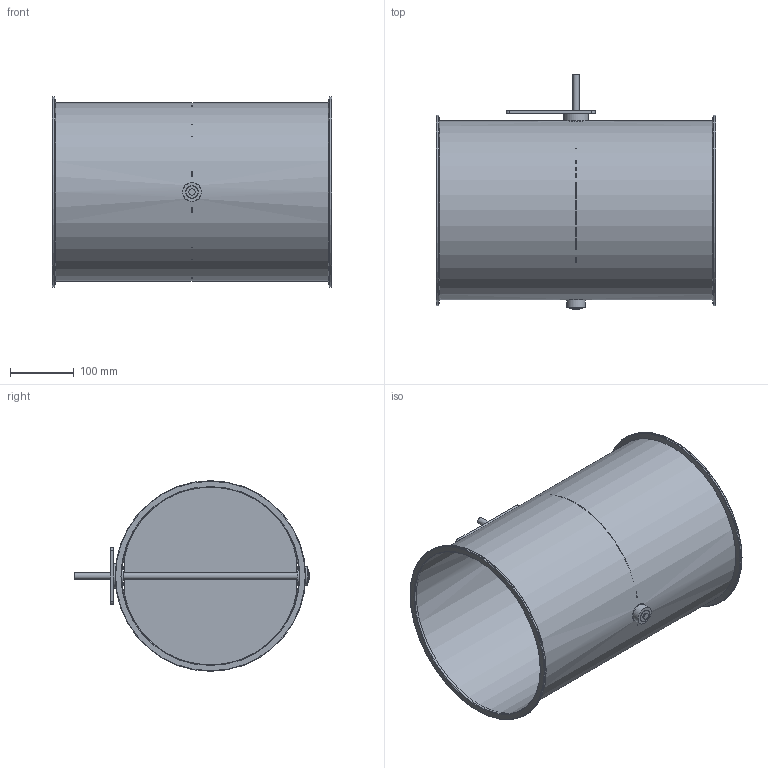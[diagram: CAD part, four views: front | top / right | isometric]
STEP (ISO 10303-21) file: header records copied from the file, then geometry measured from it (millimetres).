
FILE_DESCRIPTION(/* description */ (''),/* implementation_level */ '2;1');
FILE_NAME(/* name */ 'EA104-80B__280_L440_Belimo_Typ_NM.stp',/* time_stamp */ '2017-12-06T15:02:41+01:00',/* author */ (''),/* organization */ (''),/* preprocessor_version */ 'ST-DEVELOPER v11',/* originating_system */ 'SIEMENS UGS NX 6.0',/* authorisation */ '');
FILE_SCHEMA (('CONFIG_CONTROL_DESIGN'));
Length unit declared in the file: millimetre
Products named in the file (1): gars18E2j2an
Bounding box: 440 x 370 x 300 mm (x, y, z)
Volume: 564240.1 mm3; surface area: 981041 mm2
Topology: 8 solids, 8 shells, 60 faces, 126 edges, 84 vertices
Faces by surface type: cylinder 28, plane 24, torus 6, cone 2
Full cylindrical faces by diameter (mm): 4.1 x4, 10 x3, 19 x3, 19.85 x2, 20 x2, 29 x1, 30 x2, 39 x1, 280 x1, 281.6 x1, 300 x2
Entity records: 1568 total; most frequent: CARTESIAN_POINT 289, DIRECTION 262, ORIENTED_EDGE 172, AXIS2_PLACEMENT_3D 119, EDGE_LOOP 116, FACE_BOUND 102, EDGE_CURVE 86, VERTEX_POINT 74
